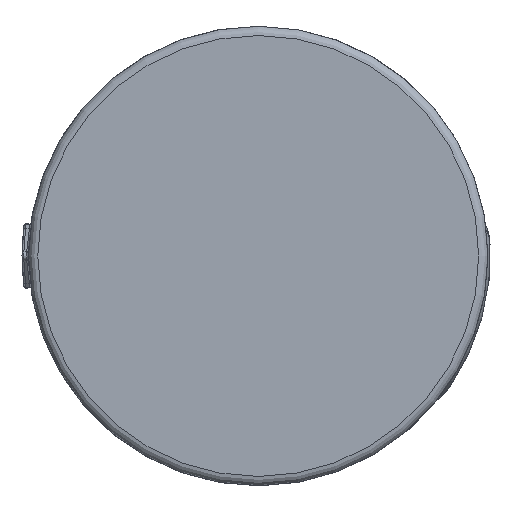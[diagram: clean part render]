
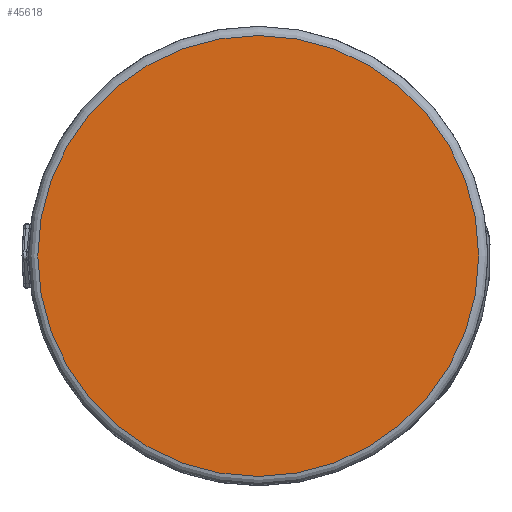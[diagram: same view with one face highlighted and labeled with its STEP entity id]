
A CAD part, left-side view. The second image highlights one B-rep face of the part: STEP entity #45618.
In plain terms, the highlighted planar face has unit normal (-1, 0, 0).
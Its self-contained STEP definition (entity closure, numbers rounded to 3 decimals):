
#288 = DIRECTION ( 'NONE',  ( -1., 0., 0. ) ) ;
#13418 = EDGE_CURVE ( 'NONE', #71926, #71926, #31261, .T. ) ;
#14797 = FACE_OUTER_BOUND ( 'NONE', #17599, .T. ) ;
#17599 = EDGE_LOOP ( 'NONE', ( #75526 ) ) ;
#20674 = AXIS2_PLACEMENT_3D ( 'NONE', #65193, #38472, #68157 ) ;
#31261 = CIRCLE ( 'NONE', #20674, 23.75 ) ;
#32825 = AXIS2_PLACEMENT_3D ( 'NONE', #47234, #288, #41346 ) ;
#38472 = DIRECTION ( 'NONE',  ( -1., 0., 0. ) ) ;
#41346 = DIRECTION ( 'NONE',  ( 0., 0., 1. ) ) ;
#45618 = ADVANCED_FACE ( 'NONE', ( #14797 ), #47485, .T. ) ;
#47234 = CARTESIAN_POINT ( 'NONE',  ( -183.5, 0., 0. ) ) ;
#47485 = PLANE ( 'NONE',  #32825 ) ;
#55875 = CARTESIAN_POINT ( 'NONE',  ( -183.5, 0., 23.75 ) ) ;
#65193 = CARTESIAN_POINT ( 'NONE',  ( -183.5, 0., 0. ) ) ;
#68157 = DIRECTION ( 'NONE',  ( 0., 0., 1. ) ) ;
#71926 = VERTEX_POINT ( 'NONE', #55875 ) ;
#75526 = ORIENTED_EDGE ( 'NONE', *, *, #13418, .T. ) ;
